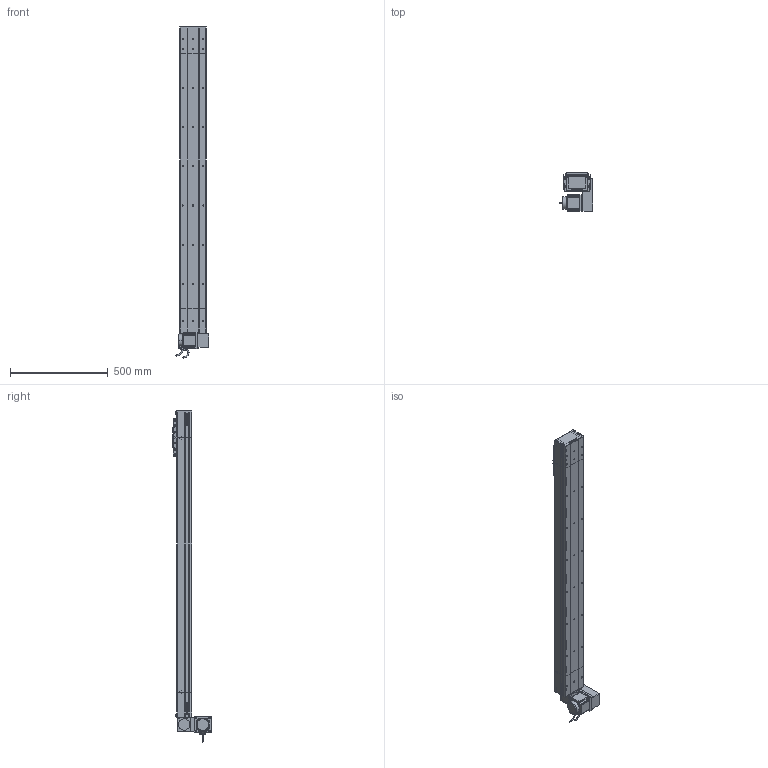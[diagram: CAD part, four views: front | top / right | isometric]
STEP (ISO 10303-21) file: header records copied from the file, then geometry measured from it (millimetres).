
FILE_DESCRIPTION (( 'STEP AP214' ), '1' );
FILE_NAME ('D14 CBH S1300 LU.STEP', '2010-06-30T06:48:52', ( 'Conseil Régional Haute-Normandie' ), ( 'Conseil Régional Haute-Normandie' ), 'SwSTEP 2.0', 'SolidWorks 2010', '' );
FILE_SCHEMA (( 'AUTOMOTIVE_DESIGN' ));
Length unit declared in the file: millimetre
Products named in the file (28): chariot supérieur D14; Head D14 CBH LU; vis CHC M5; Head D14 CBH; Conecteur_Default; Conecteur2_Default; codeur GMB 90 70 310; corps GMB 90 70 310; avant GMB 90 70 310; GMB 90 70 310; Support moteur Head D14 CBH; couvercle Head D14 CBH; vis CHC M7; plaque de bout Head D14 CBH; Vis CHC M8; plaque de maintient CBH D14; plaque fermeture Head D14 CBH; corps Head D14 CBH; D14 CBH S1300 LU; couvercle CBH S1300; corps CBH S1300; course CBH S1300; plaque de bout tail CBH d14; corps tail  CBH d14 A; Tail CBH D14 A; charriot inférieur D14; chariot D14; couvercle tail CBH D14
Assembly tree (51 placements, depth 4):
  D14 CBH S1300 LU
    Tail CBH D14 A
      vis CHC M7  x4
      plaque de bout tail CBH d14
      Vis CHC M8  x2
      corps tail  CBH d14 A
      plaque de maintient CBH D14
      couvercle tail CBH D14
    Head D14 CBH LU
      Head D14 CBH
        plaque de maintient CBH D14
        vis CHC M7  x4
        plaque de bout Head D14 CBH
        corps Head D14 CBH
        Vis CHC M8  x2
        couvercle Head D14 CBH
      Support moteur Head D14 CBH
      plaque fermeture Head D14 CBH  x3
      GMB 90 70 310
        Conecteur2_Default
        corps GMB 90 70 310
        codeur GMB 90 70 310
        Conecteur_Default
        avant GMB 90 70 310
    chariot D14
      vis CHC M7  x8
      vis CHC M5  x4
      chariot supérieur D14
      charriot inférieur D14
    course CBH S1300
      corps CBH S1300
      couvercle CBH S1300
Bounding box: 171.5 x 195.75 x 1695.95 mm (x, y, z)
Volume: 5362772.3 mm3; surface area: 1690239.1 mm2
Topology: 51 solids, 51 shells, 2474 faces, 6382 edges, 4194 vertices
Faces by surface type: plane 1371, bspline 538, cylinder 452, torus 61, cone 48, sphere 4
Entity records: 109633 total; most frequent: CARTESIAN_POINT 58228, ORIENTED_EDGE 11060, DIRECTION 8375, EDGE_CURVE 5530, VECTOR 3677, LINE 3677, VERTEX_POINT 3658, EDGE_LOOP 2366
